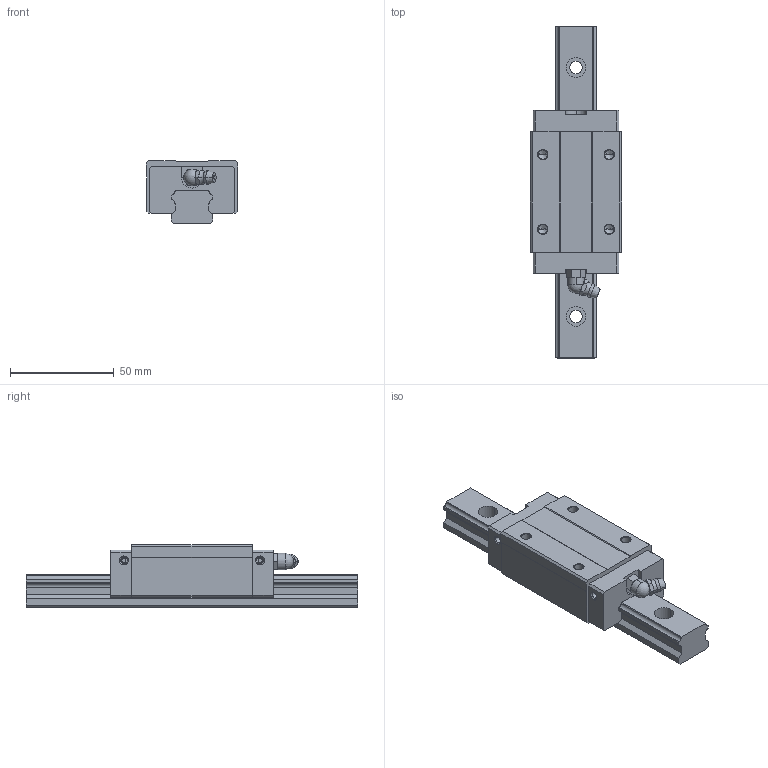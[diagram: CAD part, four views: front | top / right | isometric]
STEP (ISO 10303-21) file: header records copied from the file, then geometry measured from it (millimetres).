
FILE_DESCRIPTION((''),'1');
FILE_NAME(' ',' ',(''),(''),'ACIS Interop R16','Kubotek KeyCreator V6.5.2 (0407)',' ');
FILE_SCHEMA(('CONFIG_CONTROL_DESIGN'));
Length unit declared in the file: millimetre
Products named in the file (3): 1; 2; 3
Bounding box: 44 x 160 x 30 mm (x, y, z)
Volume: 110598.1 mm3; surface area: 28438.5 mm2
Topology: 3 solids, 3 shells, 205 faces, 531 edges, 341 vertices
Faces by surface type: plane 98, cylinder 66, cone 26, torus 10, sphere 3, bspline 2
Entity records: 6508 total; most frequent: CARTESIAN_POINT 1268, DIRECTION 1106, ORIENTED_EDGE 1042, EDGE_CURVE 521, AXIS2_PLACEMENT_3D 399, VERTEX_POINT 341, LINE 308, VECTOR 308
